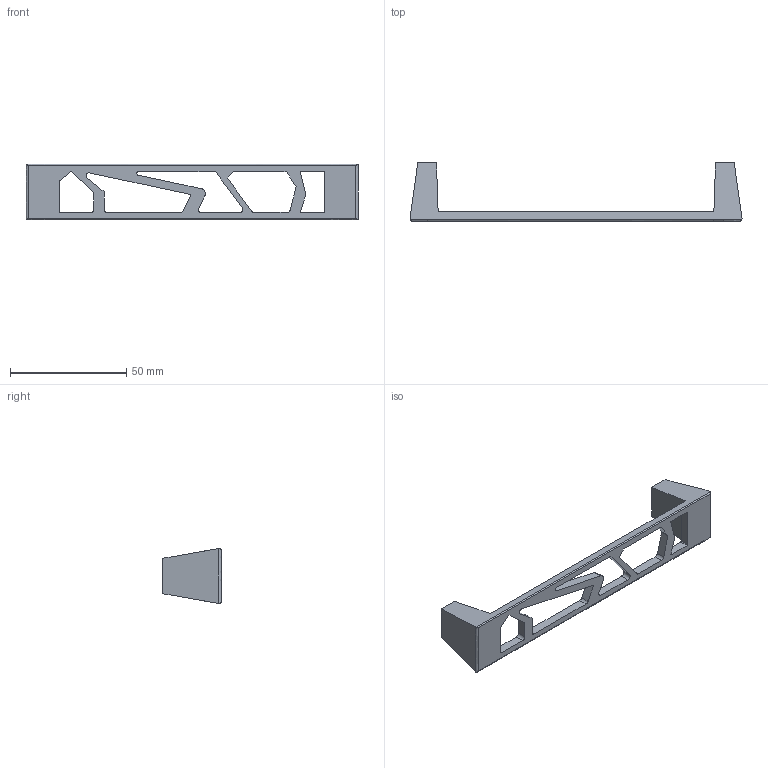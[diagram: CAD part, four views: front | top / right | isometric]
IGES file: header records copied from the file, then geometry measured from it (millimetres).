
Start section: Data from Parasolid IGES Translator 15.0.47, Copyright(c) 2006 Siemens P LM Software. All Rights Reserved.
Global section: file name: 9082138.igs; native system:  By UGS Corp.; preprocessor: XPlus GENERIC/IGES 3.0; author: Noname; organization: Noname; date: 20140123.102456; units: millimetre
Bounding box: 142.73 x 25 x 23.81 mm (x, y, z)
Surface area: 8714.1 mm2 (no closed solid volume)
Topology: 0 solids, 0 shells, 74 faces, 436 edges, 434 vertices
Faces by surface type: extrusion 38, revolution 36
